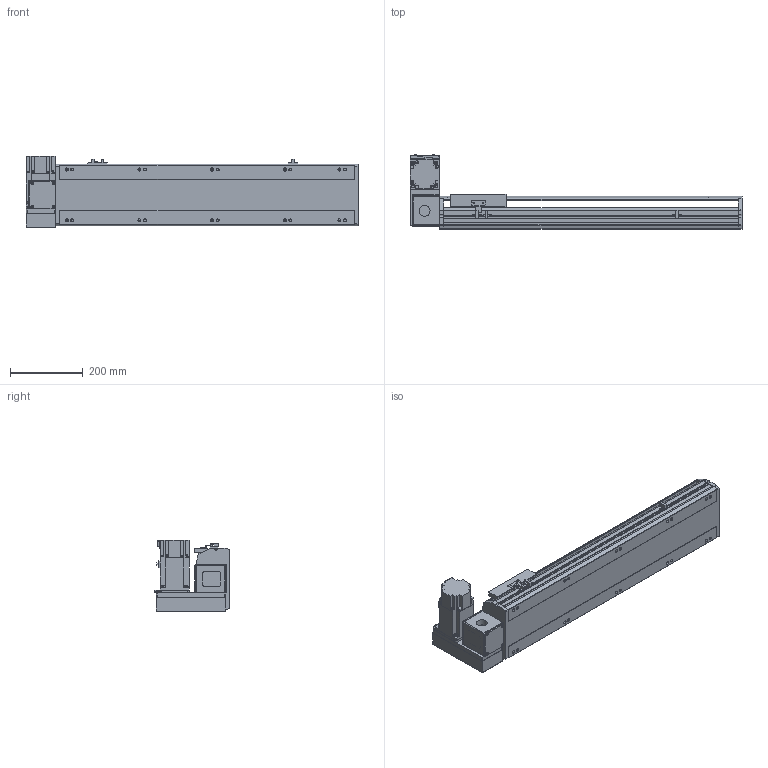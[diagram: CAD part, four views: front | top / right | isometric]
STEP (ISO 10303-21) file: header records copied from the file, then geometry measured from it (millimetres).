
FILE_DESCRIPTION( ( 'STEP AP214' ), '1' );
FILE_NAME( 'x:/temp/worker_4/temp/exporttempdir_2248_386_nP19T/format_0/PBS170-P40-S550-LU-T75-C1-N(0).stp', '2022-06-07T08:14:23', ( 'License CC BY-ND 4.0' ), ( 'CADENAS' ), ' ', 'PARTsolutions', ' ' );
FILE_SCHEMA( ( 'AUTOMOTIVE_DESIGN { 1 0 10303 214 1 1 1 1 }' ) );
Length unit declared in the file: millimetre
Products named in the file (7): PBS170-P40-S550-LU-T75-C1-N(0); _PBS170-S550()_body; _PBS170T-LU_motors; _T75-p1; _PBS170_sliser; _PBS170_plant; _PBS170_sensor
Assembly tree (8 placements, depth 2):
  PBS170-P40-S550-LU-T75-C1-N(0)
    _PBS170-S550()_body
    _PBS170T-LU_motors
    _T75-p1
    _PBS170_sliser
    _PBS170_plant
    _PBS170_sensor  x3
Bounding box: 913 x 206 x 197.3 mm (x, y, z)
Volume: 7784619.9 mm3; surface area: 1053094.8 mm2
Topology: 8 solids, 8 shells, 1034 faces, 2755 edges, 1796 vertices
Faces by surface type: plane 669, cylinder 315, cone 40, sphere 8, torus 2
Full cylindrical faces by diameter (mm): 3.242 x4, 4 x2, 4.4 x4, 4.5 x6, 4.917 x4, 6 x9, 6.647 x18, 7 x2, 7.5 x4, 8 x8, 8.5 x10, 10 x4, 10.5 x10, 11 x2, 30 x2, 40 x1, 70 x1
Entity records: 37814 total; most frequent: CARTESIAN_POINT 5717, DIRECTION 5090, ORIENTED_EDGE 4848, EDGE_CURVE 2424, AXIS2_PLACEMENT_3D 1747, VERTEX_POINT 1658, LINE 1596, VECTOR 1596
